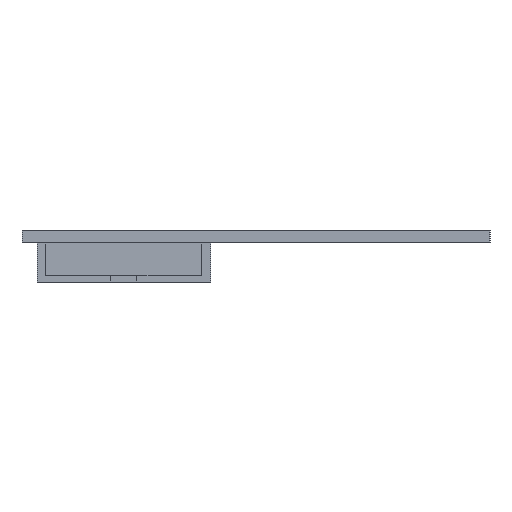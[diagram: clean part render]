
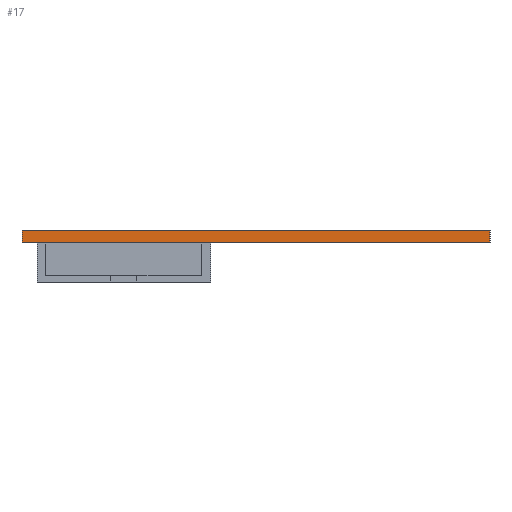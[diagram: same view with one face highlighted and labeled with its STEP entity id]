
A CAD part, left-side view. The second image highlights one B-rep face of the part: STEP entity #17.
In plain terms, the highlighted planar face has unit normal (-1, 0, 0).
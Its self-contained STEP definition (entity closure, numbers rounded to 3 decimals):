
#17 = ADVANCED_FACE('',(#18),#32,.F.);
#18 = FACE_BOUND('',#19,.F.);
#19 = EDGE_LOOP('',(#20,#55,#83,#111));
#20 = ORIENTED_EDGE('',*,*,#21,.F.);
#21 = EDGE_CURVE('',#22,#24,#26,.T.);
#22 = VERTEX_POINT('',#23);
#23 = CARTESIAN_POINT('',(0.,0.,52.));
#24 = VERTEX_POINT('',#25);
#25 = CARTESIAN_POINT('',(0.,0.,55.));
#26 = SURFACE_CURVE('',#27,(#31,#43),.PCURVE_S1.);
#27 = LINE('',#28,#29);
#28 = CARTESIAN_POINT('',(0.,0.,52.));
#29 = VECTOR('',#30,1.);
#30 = DIRECTION('',(0.,0.,1.));
#31 = PCURVE('',#32,#37);
#32 = PLANE('',#33);
#33 = AXIS2_PLACEMENT_3D('',#34,#35,#36);
#34 = CARTESIAN_POINT('',(0.,0.,52.));
#35 = DIRECTION('',(1.,0.,0.));
#36 = DIRECTION('',(0.,0.,1.));
#37 = DEFINITIONAL_REPRESENTATION('',(#38),#42);
#38 = LINE('',#39,#40);
#39 = CARTESIAN_POINT('',(0.,0.));
#40 = VECTOR('',#41,1.);
#41 = DIRECTION('',(1.,0.));
#42 = ( GEOMETRIC_REPRESENTATION_CONTEXT(2) 
PARAMETRIC_REPRESENTATION_CONTEXT() REPRESENTATION_CONTEXT('2D SPACE',''
  ) );
#43 = PCURVE('',#44,#49);
#44 = PLANE('',#45);
#45 = AXIS2_PLACEMENT_3D('',#46,#47,#48);
#46 = CARTESIAN_POINT('',(0.,0.,52.));
#47 = DIRECTION('',(0.,1.,0.));
#48 = DIRECTION('',(0.,0.,1.));
#49 = DEFINITIONAL_REPRESENTATION('',(#50),#54);
#50 = LINE('',#51,#52);
#51 = CARTESIAN_POINT('',(0.,0.));
#52 = VECTOR('',#53,1.);
#53 = DIRECTION('',(1.,0.));
#54 = ( GEOMETRIC_REPRESENTATION_CONTEXT(2) 
PARAMETRIC_REPRESENTATION_CONTEXT() REPRESENTATION_CONTEXT('2D SPACE',''
  ) );
#55 = ORIENTED_EDGE('',*,*,#56,.T.);
#56 = EDGE_CURVE('',#22,#57,#59,.T.);
#57 = VERTEX_POINT('',#58);
#58 = CARTESIAN_POINT('',(0.,108.,52.));
#59 = SURFACE_CURVE('',#60,(#64,#71),.PCURVE_S1.);
#60 = LINE('',#61,#62);
#61 = CARTESIAN_POINT('',(0.,0.,52.));
#62 = VECTOR('',#63,1.);
#63 = DIRECTION('',(0.,1.,0.));
#64 = PCURVE('',#32,#65);
#65 = DEFINITIONAL_REPRESENTATION('',(#66),#70);
#66 = LINE('',#67,#68);
#67 = CARTESIAN_POINT('',(0.,0.));
#68 = VECTOR('',#69,1.);
#69 = DIRECTION('',(0.,-1.));
#70 = ( GEOMETRIC_REPRESENTATION_CONTEXT(2) 
PARAMETRIC_REPRESENTATION_CONTEXT() REPRESENTATION_CONTEXT('2D SPACE',''
  ) );
#71 = PCURVE('',#72,#77);
#72 = PLANE('',#73);
#73 = AXIS2_PLACEMENT_3D('',#74,#75,#76);
#74 = CARTESIAN_POINT('',(0.,0.,52.));
#75 = DIRECTION('',(0.,0.,1.));
#76 = DIRECTION('',(1.,0.,0.));
#77 = DEFINITIONAL_REPRESENTATION('',(#78),#82);
#78 = LINE('',#79,#80);
#79 = CARTESIAN_POINT('',(0.,0.));
#80 = VECTOR('',#81,1.);
#81 = DIRECTION('',(0.,1.));
#82 = ( GEOMETRIC_REPRESENTATION_CONTEXT(2) 
PARAMETRIC_REPRESENTATION_CONTEXT() REPRESENTATION_CONTEXT('2D SPACE',''
  ) );
#83 = ORIENTED_EDGE('',*,*,#84,.T.);
#84 = EDGE_CURVE('',#57,#85,#87,.T.);
#85 = VERTEX_POINT('',#86);
#86 = CARTESIAN_POINT('',(0.,108.,55.));
#87 = SURFACE_CURVE('',#88,(#92,#99),.PCURVE_S1.);
#88 = LINE('',#89,#90);
#89 = CARTESIAN_POINT('',(0.,108.,52.));
#90 = VECTOR('',#91,1.);
#91 = DIRECTION('',(0.,0.,1.));
#92 = PCURVE('',#32,#93);
#93 = DEFINITIONAL_REPRESENTATION('',(#94),#98);
#94 = LINE('',#95,#96);
#95 = CARTESIAN_POINT('',(0.,-108.));
#96 = VECTOR('',#97,1.);
#97 = DIRECTION('',(1.,0.));
#98 = ( GEOMETRIC_REPRESENTATION_CONTEXT(2) 
PARAMETRIC_REPRESENTATION_CONTEXT() REPRESENTATION_CONTEXT('2D SPACE',''
  ) );
#99 = PCURVE('',#100,#105);
#100 = PLANE('',#101);
#101 = AXIS2_PLACEMENT_3D('',#102,#103,#104);
#102 = CARTESIAN_POINT('',(0.,108.,52.));
#103 = DIRECTION('',(0.,1.,0.));
#104 = DIRECTION('',(0.,0.,1.));
#105 = DEFINITIONAL_REPRESENTATION('',(#106),#110);
#106 = LINE('',#107,#108);
#107 = CARTESIAN_POINT('',(0.,0.));
#108 = VECTOR('',#109,1.);
#109 = DIRECTION('',(1.,0.));
#110 = ( GEOMETRIC_REPRESENTATION_CONTEXT(2) 
PARAMETRIC_REPRESENTATION_CONTEXT() REPRESENTATION_CONTEXT('2D SPACE',''
  ) );
#111 = ORIENTED_EDGE('',*,*,#112,.F.);
#112 = EDGE_CURVE('',#24,#85,#113,.T.);
#113 = SURFACE_CURVE('',#114,(#118,#125),.PCURVE_S1.);
#114 = LINE('',#115,#116);
#115 = CARTESIAN_POINT('',(0.,0.,55.));
#116 = VECTOR('',#117,1.);
#117 = DIRECTION('',(0.,1.,0.));
#118 = PCURVE('',#32,#119);
#119 = DEFINITIONAL_REPRESENTATION('',(#120),#124);
#120 = LINE('',#121,#122);
#121 = CARTESIAN_POINT('',(3.,0.));
#122 = VECTOR('',#123,1.);
#123 = DIRECTION('',(0.,-1.));
#124 = ( GEOMETRIC_REPRESENTATION_CONTEXT(2) 
PARAMETRIC_REPRESENTATION_CONTEXT() REPRESENTATION_CONTEXT('2D SPACE',''
  ) );
#125 = PCURVE('',#126,#131);
#126 = PLANE('',#127);
#127 = AXIS2_PLACEMENT_3D('',#128,#129,#130);
#128 = CARTESIAN_POINT('',(0.,0.,55.));
#129 = DIRECTION('',(0.,0.,1.));
#130 = DIRECTION('',(1.,0.,0.));
#131 = DEFINITIONAL_REPRESENTATION('',(#132),#136);
#132 = LINE('',#133,#134);
#133 = CARTESIAN_POINT('',(0.,0.));
#134 = VECTOR('',#135,1.);
#135 = DIRECTION('',(0.,1.));
#136 = ( GEOMETRIC_REPRESENTATION_CONTEXT(2) 
PARAMETRIC_REPRESENTATION_CONTEXT() REPRESENTATION_CONTEXT('2D SPACE',''
  ) );
